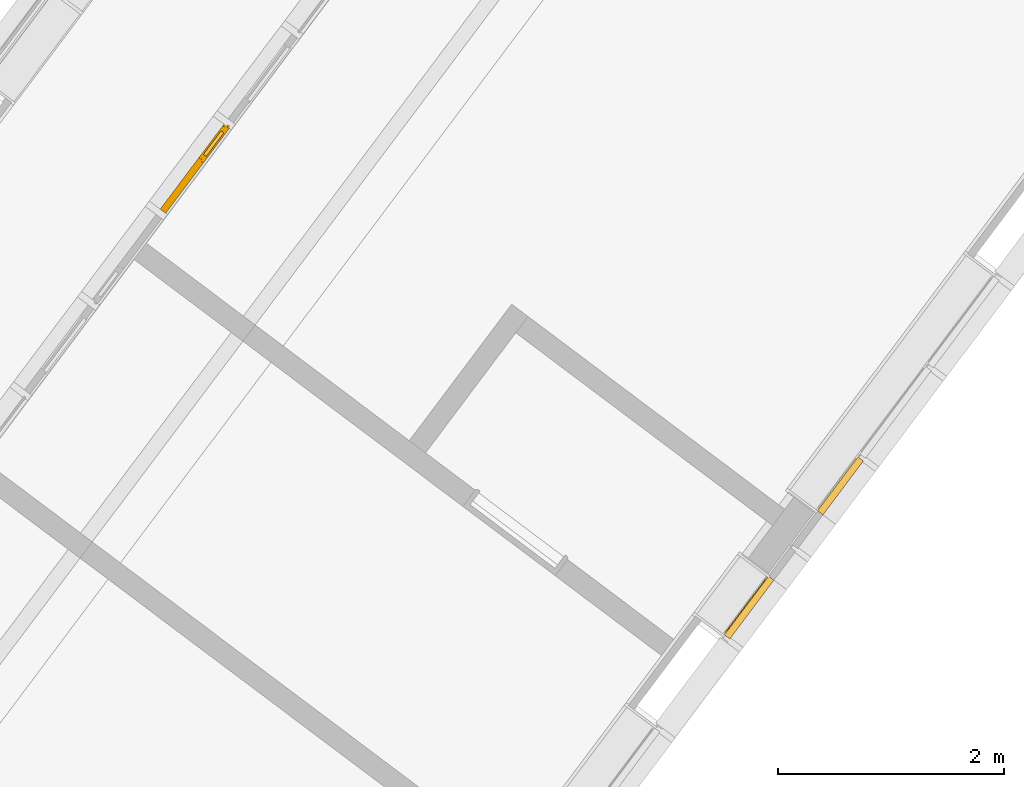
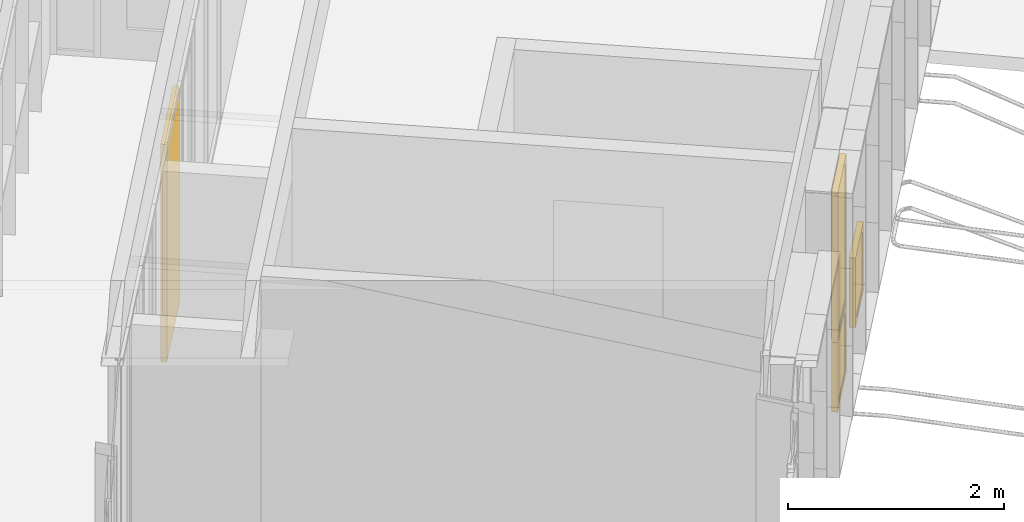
# One storey, part 227 of 243: 4 windows, 2 elements without a shape of their own.
"""IFC2X3 building model written with IfcOpenShell, lengths in metres."""

from ifc_helpers import new_model, entity, si_unit, converted_unit, derived_unit, direction, frame, origin, place, context, subcontext, project, spatial, faceted_brep, source, transform, mapped, material, material_list, type_object, type_shapes, element, aggregate, save


model = new_model("IFC2X3")

# Units and contexts
model_context = context("Model", 3, precision=1e-05, world=origin(), true_north=direction((6.123031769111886e-17, 1.0)))
body_context = subcontext(model_context, "Body", "Model", "MODEL_VIEW")
ifc_project = project(units=[si_unit("LENGTHUNIT", "METRE"), si_unit("AREAUNIT", "SQUARE_METRE"), si_unit("VOLUMEUNIT", "CUBIC_METRE"), converted_unit("PLANEANGLEUNIT", "DEGREE", entity("IfcRatioMeasure", 0.017453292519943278), si_unit("PLANEANGLEUNIT", "RADIAN"), dimensions=[0, 0, 0, 0, 0, 0, 0]), si_unit("MASSUNIT", "GRAM", prefix="KILO"), derived_unit("MASSDENSITYUNIT", [(si_unit("MASSUNIT", "GRAM", prefix="KILO"), 1), (si_unit("LENGTHUNIT", "METRE"), -3)]), derived_unit("IONCONCENTRATIONUNIT", [(si_unit("MASSUNIT", "GRAM", prefix="KILO"), 1), (si_unit("LENGTHUNIT", "METRE"), -3)]), derived_unit("MOMENTOFINERTIAUNIT", [(si_unit("LENGTHUNIT", "METRE"), 4)]), si_unit("TIMEUNIT", "SECOND"), si_unit("FREQUENCYUNIT", "HERTZ"), si_unit("THERMODYNAMICTEMPERATUREUNIT", "DEGREE_CELSIUS"), derived_unit("THERMALTRANSMITTANCEUNIT", [(si_unit("MASSUNIT", "GRAM", prefix="KILO"), 1), (si_unit("THERMODYNAMICTEMPERATUREUNIT", "KELVIN"), -1), (si_unit("TIMEUNIT", "SECOND"), -3)]), derived_unit("THERMALCONDUCTANCEUNIT", [(si_unit("MASSUNIT", "GRAM", prefix="KILO"), 1), (si_unit("THERMODYNAMICTEMPERATUREUNIT", "KELVIN"), -1), (si_unit("TIMEUNIT", "SECOND"), -3), (si_unit("LENGTHUNIT", "METRE"), 1)]), derived_unit("VOLUMETRICFLOWRATEUNIT", [(si_unit("LENGTHUNIT", "METRE"), 3), (si_unit("TIMEUNIT", "SECOND"), -1)]), derived_unit("MASSFLOWRATEUNIT", [(si_unit("MASSUNIT", "GRAM", prefix="KILO"), 1), (si_unit("TIMEUNIT", "SECOND"), -1)]), derived_unit("ROTATIONALFREQUENCYUNIT", [(si_unit("TIMEUNIT", "SECOND"), -1)]), si_unit("ELECTRICCURRENTUNIT", "AMPERE"), si_unit("ELECTRICVOLTAGEUNIT", "VOLT"), si_unit("POWERUNIT", "WATT"), si_unit("FORCEUNIT", "NEWTON", prefix="KILO"), si_unit("ILLUMINANCEUNIT", "LUX"), si_unit("LUMINOUSFLUXUNIT", "LUMEN"), si_unit("LUMINOUSINTENSITYUNIT", "CANDELA"), derived_unit("USERDEFINED", [(si_unit("MASSUNIT", "GRAM", prefix="KILO"), -1), (si_unit("LENGTHUNIT", "METRE"), -2), (si_unit("TIMEUNIT", "SECOND"), 3), (si_unit("LUMINOUSFLUXUNIT", "LUMEN"), 1)]), derived_unit("USERDEFINED", [(si_unit("MASSUNIT", "GRAM", prefix="KILO"), 1), (si_unit("TIMEUNIT", "SECOND"), -3), (si_unit("LENGTHUNIT", "METRE"), 3), (si_unit("ELECTRICCURRENTUNIT", "AMPERE"), -2)]), derived_unit("SOUNDPOWERUNIT", [(si_unit("MASSUNIT", "GRAM", prefix="KILO"), 1), (si_unit("TIMEUNIT", "SECOND"), -3), (si_unit("LENGTHUNIT", "METRE"), 2)]), derived_unit("SOUNDPRESSUREUNIT", [(si_unit("MASSUNIT", "GRAM", prefix="KILO"), 1), (si_unit("LENGTHUNIT", "METRE"), -1), (si_unit("TIMEUNIT", "SECOND"), -2)]), derived_unit("LINEARVELOCITYUNIT", [(si_unit("LENGTHUNIT", "METRE"), 1), (si_unit("TIMEUNIT", "SECOND"), -1)]), si_unit("PRESSUREUNIT", "PASCAL"), derived_unit("USERDEFINED", [(si_unit("MASSUNIT", "GRAM", prefix="KILO"), 1), (si_unit("LENGTHUNIT", "METRE"), -2), (si_unit("TIMEUNIT", "SECOND"), -2)]), derived_unit("LINEARFORCEUNIT", [(si_unit("MASSUNIT", "GRAM", prefix="KILO"), 1), (si_unit("TIMEUNIT", "SECOND"), -2)]), derived_unit("PLANARFORCEUNIT", [(si_unit("MASSUNIT", "GRAM", prefix="KILO"), 1), (si_unit("LENGTHUNIT", "METRE"), -1), (si_unit("TIMEUNIT", "SECOND"), -2)]), derived_unit("SPECIFICHEATCAPACITYUNIT", [(si_unit("THERMODYNAMICTEMPERATUREUNIT", "KELVIN"), -1), (si_unit("LENGTHUNIT", "METRE"), 2), (si_unit("TIMEUNIT", "SECOND"), -2)]), derived_unit("HEATINGVALUEUNIT", [(si_unit("LENGTHUNIT", "METRE"), 2), (si_unit("TIMEUNIT", "SECOND"), -2)]), derived_unit("VAPORPERMEABILITYUNIT", [(si_unit("LENGTHUNIT", "METRE"), -1), (si_unit("TIMEUNIT", "SECOND"), 1)]), derived_unit("DYNAMICVISCOSITYUNIT", [(si_unit("MASSUNIT", "GRAM", prefix="KILO"), 1), (si_unit("TIMEUNIT", "SECOND"), -1), (si_unit("LENGTHUNIT", "METRE"), -1)]), derived_unit("THERMALEXPANSIONCOEFFICIENTUNIT", [(si_unit("THERMODYNAMICTEMPERATUREUNIT", "KELVIN"), -1)]), derived_unit("MODULUSOFELASTICITYUNIT", [(si_unit("MASSUNIT", "GRAM", prefix="KILO"), 1), (si_unit("LENGTHUNIT", "METRE"), -1), (si_unit("TIMEUNIT", "SECOND"), -2)]), derived_unit("ISOTHERMALMOISTURECAPACITYUNIT", [(si_unit("LENGTHUNIT", "METRE"), 3), (si_unit("MASSUNIT", "GRAM", prefix="KILO"), -1)]), derived_unit("MOISTUREDIFFUSIVITYUNIT", [(si_unit("TIMEUNIT", "SECOND"), -1), (si_unit("LENGTHUNIT", "METRE"), 2)])], contexts=[model_context])

# Site, building, storey
site_placement = place(None, frame((0.0, 0.0, 235.0), z_axis=(0.0, 0.0, 1.0), x_axis=(-0.7996477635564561, 0.6004693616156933, 0.0)))
site = spatial("IfcSite", under=ifc_project, at=site_placement, Name="Default", CompositionType="ELEMENT")
building_placement = place(site_placement, origin())
building = spatial("IfcBuilding", under=site, at=building_placement, CompositionType="ELEMENT")
storey_placement = place(building_placement, origin())
storey = spatial("IfcBuildingStorey", under=building, at=storey_placement, Name="P0- Escola", CompositionType="ELEMENT", Elevation=0.0)

# Curtain wall, window
curtain_wall_type_1 = type_object("IfcCurtainWallType", Name="Muro cortina:MC- INT- a2", PredefinedType="NOTDEFINED")
curtain_wall_1_placement = place(storey_placement, origin())
curtain_wall_1 = element("IfcCurtainWall", 1, at=curtain_wall_1_placement, inside=storey, type_object=curtain_wall_type_1, Name="Muro cortina:MC- INT- a2", ObjectType="Muro cortina:MC- INT- a2")
ifc_material_1 = material(Name="_Fusta massisa- T1-  REV- PAV")
window_style_1 = type_object("IfcWindowStyle", Name="MC- Fusta- Finestra ventilacio interior:MC- Fusta- Finestra ventilacio interior", ConstructionType="NOTDEFINED", OperationType="NOTDEFINED", ParameterTakesPrecedence=False, Sizeable=False, material=ifc_material_1)
shared_shape_1 = source(origin(), body_context, "Body", "Brep", [
    faceted_brep([(0.40050000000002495, 0.025000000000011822, 2.382999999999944), (0.13950000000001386, 0.0250000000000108, 2.3829999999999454), (0.13950000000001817, 0.025000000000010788, 1.0449999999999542), (0.4005000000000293, 0.025000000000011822, 1.0449999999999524), (0.139500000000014, -0.004999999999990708, 2.3829999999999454), (0.1395000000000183, -0.004999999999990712, 1.0449999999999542), (0.4005000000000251, -0.004999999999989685, 2.382999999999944), (0.40050000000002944, -0.00499999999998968, 1.0449999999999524), (0.09450000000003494, 0.04000000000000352, 2.427999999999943), (0.09450000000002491, 0.04000000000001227, 1.0), (0.09450000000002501, 0.01000000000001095, 1.0), (0.09450000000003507, 0.01000000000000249, 2.427999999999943), (0.44550000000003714, 0.010000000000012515, 1.0), (0.445500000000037, 0.04000000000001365, 1.0), (0.4455000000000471, 0.0400000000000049, 2.427999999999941), (0.44550000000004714, 0.010000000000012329, 2.428000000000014), (0.07950000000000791, 0.009999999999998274, 0.9850000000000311), (0.07950000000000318, 0.010000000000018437, 2.44300000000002), (0.46050000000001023, 0.010000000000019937, 2.4430000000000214), (0.46050000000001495, 0.009999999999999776, 0.9850000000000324), (0.07950000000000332, -0.019999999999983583, 2.443000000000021), (0.07950000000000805, -0.020000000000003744, 0.9850000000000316), (0.4605000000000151, -0.02000000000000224, 0.985000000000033), (0.46050000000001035, -0.019999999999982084, 2.443000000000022)], [[[0, 1, 2, 3]], [[1, 4, 5, 2]], [[4, 6, 7, 5]], [[3, 7, 6, 0]], [[8, 9, 10, 11]], [[12, 13, 14, 15]], [[15, 14, 8, 11]], [[8, 14, 13, 9]], [[0, 6, 4, 1]], [[2, 5, 7, 3]], [[9, 13, 12, 10]], [[11, 10, 12, 15], [16, 17, 18, 19]], [[20, 21, 22, 23]], [[20, 23, 18, 17]], [[16, 21, 20, 17]], [[18, 23, 22, 19]], [[16, 19, 22, 21]]], outer=[[True], [True], [True], [True], [True], [True], [True], [True], [True], [True], [True], [False, True], [True], [True], [True], [True], [True]]),
    faceted_brep([(0.4625000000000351, -0.019999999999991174, 0.9850000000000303), (0.07750000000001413, -0.019999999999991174, 0.9850000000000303), (0.07750000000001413, -0.01999999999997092, 2.444999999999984), (0.4625000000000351, -0.01999999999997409, 2.4449999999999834), (-0.47249999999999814, -0.019999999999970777, 2.4549999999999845), (-0.4724999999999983, -0.020000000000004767, 0.004999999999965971), (0.4725000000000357, -0.020000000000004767, 0.004999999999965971), (0.47250000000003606, -0.019999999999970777, 2.4549999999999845), (0.47250000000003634, -0.01599999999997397, 2.4549999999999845), (0.47250000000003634, -0.01600000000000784, 0.004999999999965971), (-0.47249999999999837, -0.01600000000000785, 0.0049999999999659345), (0.477500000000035, -0.015999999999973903, 2.459999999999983), (-0.4774999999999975, -0.015999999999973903, 2.459999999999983), (-0.4774999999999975, -0.016000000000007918, 0.0), (0.47750000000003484, -0.016000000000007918, 0.0), (-0.47249999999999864, -0.01599999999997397, 2.455000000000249), (-0.47249999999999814, 0.03600000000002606, 2.454999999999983), (-0.47249999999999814, 0.03599999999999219, 0.004999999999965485), (0.4725000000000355, 0.03599999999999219, 0.004999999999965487), (0.4725000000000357, 0.03600000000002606, 2.454999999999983), (-0.47749999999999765, 0.036000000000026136, 2.4599999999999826), (0.4775000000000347, 0.036000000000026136, 2.459999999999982), (0.4775000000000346, 0.03599999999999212, 0.0), (-0.47749999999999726, 0.03599999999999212, 0.0), (-0.4724999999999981, 0.03999999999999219, 0.0049999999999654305), (0.47250000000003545, 0.03999999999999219, 0.004999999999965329), (0.09250000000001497, 0.040000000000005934, 1.0), (0.44750000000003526, 0.04000000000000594, 1.0), (0.44750000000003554, 0.040000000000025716, 2.4299999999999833), (0.0925000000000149, 0.040000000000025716, 2.4299999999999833), (-0.4724999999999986, 0.040000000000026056, 2.4550000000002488), (0.47250000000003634, 0.040000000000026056, 2.454999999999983), (0.4625000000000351, 0.010000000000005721, 0.9850000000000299), (0.4625000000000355, 0.010000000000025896, 2.4449999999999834), (0.0925000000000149, 0.0100000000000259, 2.4449999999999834), (0.07750000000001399, 0.010000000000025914, 2.4449999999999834), (0.07750000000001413, 0.010000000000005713, 0.9850000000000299), (0.09250000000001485, 0.010000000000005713, 0.9850000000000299), (0.44750000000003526, 0.01000000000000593, 1.0), (0.0925000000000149, 0.010000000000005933, 1.0), (0.0925000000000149, 0.010000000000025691, 2.4299999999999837), (0.4475000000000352, 0.010000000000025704, 2.4299999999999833)], [[[0, 1, 2, 3], [4, 5, 6, 7]], [[8, 7, 6, 9]], [[5, 10, 9, 6]], [[11, 12, 13, 14], [10, 15, 8, 9]], [[16, 17, 18, 19], [20, 21, 22, 23]], [[17, 24, 25, 18]], [[26, 27, 28, 29], [24, 30, 31, 25]], [[32, 33, 34, 35, 36, 37], [38, 39, 40, 41]], [[26, 39, 38, 27]], [[39, 26, 29, 40]], [[41, 28, 27, 38]], [[3, 33, 32, 0]], [[1, 36, 35, 2]], [[36, 1, 0, 32, 37]], [[4, 15, 10, 5]], [[16, 30, 24, 17]], [[12, 20, 23, 13]], [[13, 23, 22, 14]], [[21, 11, 14, 22]], [[7, 8, 15, 4]], [[11, 21, 20, 12]], [[33, 3, 2, 35, 34]], [[28, 41, 40, 29]], [[19, 31, 30, 16]], [[31, 19, 18, 25]]], outer=[[False, True], [True], [True], [True, False], [False, True], [True], [False, True], [True, False], [True], [True], [True], [True], [True], [True], [True], [True], [True], [True], [True], [True], [True], [True], [True], [True], [True]]),
])
type_shapes(window_style_1, [shared_shape_1])
window_1_placement = place(curtain_wall_1_placement, frame((34.620147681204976, -30.92269175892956, 0.059999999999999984), z_axis=(0.0, 0.0, 1.0), x_axis=(0.0, -1.0, 0.0)))
window_1 = element("IfcWindow", 2, at=window_1_placement, type_object=window_style_1, material=ifc_material_1, Name="MC- Fusta- Finestra ventilacio interior:MC- Fusta- Finestra ventilacio interior", ObjectType="MC- Fusta- Finestra ventilacio interior:MC- Fusta- Finestra ventilacio interior", OverallHeight=2.4600000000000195, OverallWidth=0.9550000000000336, context=body_context, shape_type="MappedRepresentation", body=[
    mapped(shared_shape_1, transform((0.0, 0.0, 0.0), scale=1.0)),
])
aggregate(curtain_wall_1, [window_1])

# Curtain wall, windows
curtain_wall_type_2 = type_object("IfcCurtainWallType", Name="Muro cortina:MC- EXT- MC2", PredefinedType="NOTDEFINED")
curtain_wall_2_placement = place(storey_placement, origin())
curtain_wall_2 = element("IfcCurtainWall", 3, at=curtain_wall_2_placement, inside=storey, type_object=curtain_wall_type_2, Name="Muro cortina:MC- EXT- MC2", ObjectType="Muro cortina:MC- EXT- MC2")
ifc_material_2 = material(Name="_Vidre")
ifc_material_3 = material(Name="_Alumini- T1- Perfil")
ifc_material_list = material_list([ifc_material_2, ifc_material_3])
window_style_2 = type_object("IfcWindowStyle", Name="MC- Alu- Conjunt vidre fix- 62x60 cm:MC- Alu- Conjunt vidre fix- 62x60 cm", ConstructionType="NOTDEFINED", OperationType="NOTDEFINED", ParameterTakesPrecedence=False, Sizeable=False, material=ifc_material_list)
shared_shape_2 = source(origin(), body_context, "Body", "Brep", [
    faceted_brep([(0.27702661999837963, -0.007600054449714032, 0.048806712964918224), (0.27702661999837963, -0.03160022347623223, 0.048806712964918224), (-0.27702661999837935, -0.03160022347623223, 0.048806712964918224), (-0.27702661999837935, -0.007600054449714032, 0.048806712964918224), (0.27702661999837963, -0.007600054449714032, 0.7387000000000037), (-0.27702661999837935, -0.007600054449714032, 0.7387000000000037), (-0.27702661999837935, -0.03160022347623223, 0.7387000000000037), (0.27702661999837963, -0.03160022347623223, 0.7387000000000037)], [[[0, 1, 2, 3]], [[4, 0, 3, 5]], [[5, 3, 2, 6]], [[6, 2, 1, 7]], [[7, 1, 0, 4]], [[4, 5, 6, 7]]]),
    faceted_brep([(0.3258333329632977, -0.05999999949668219, 0.7877000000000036), (0.3258333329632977, -0.05999999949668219, 0.0), (0.3258333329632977, 0.0, 0.0), (0.3258333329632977, 0.0, 0.7877000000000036), (-0.3258333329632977, 0.0, 0.7877000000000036), (-0.3258333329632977, 0.0, 0.0), (0.2630265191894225, 0.0, 0.7248931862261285), (-0.2630265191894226, 0.0, 0.7248931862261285), (-0.2630265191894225, 0.0, 0.06280681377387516), (0.2630265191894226, 0.0, 0.06280681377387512), (-0.3258333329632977, -0.05999999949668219, 0.0), (-0.3258333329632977, -0.05999999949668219, 0.7877000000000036), (-0.263029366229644, -0.05999999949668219, 0.72489603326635), (0.263029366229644, -0.05999999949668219, 0.72489603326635), (0.263029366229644, -0.05999999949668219, 0.0628039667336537), (-0.263029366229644, -0.05999999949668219, 0.0628039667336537), (0.26302936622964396, -0.03160022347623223, 0.7248960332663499), (0.263029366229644, -0.03160022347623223, 0.0628039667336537), (-0.263029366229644, -0.03160022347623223, 0.0628039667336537), (-0.2630293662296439, -0.03160022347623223, 0.7248960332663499), (-0.2770266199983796, -0.03160022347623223, 0.7388932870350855), (0.2770266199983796, -0.03160022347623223, 0.7388932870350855), (0.2770266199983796, -0.03160022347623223, 0.048806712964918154), (-0.2770266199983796, -0.03160022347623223, 0.04880671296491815), (0.2770266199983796, -0.007600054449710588, 0.7388932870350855), (0.2770266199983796, -0.007600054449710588, 0.04880671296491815), (-0.2770266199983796, -0.007600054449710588, 0.04880671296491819), (-0.2770266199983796, -0.007600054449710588, 0.7388932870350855), (-0.2630265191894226, -0.007600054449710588, 0.7248931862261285), (0.2630265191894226, -0.007600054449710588, 0.7248931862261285), (0.2630265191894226, -0.007600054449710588, 0.06280681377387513), (-0.2630265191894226, -0.007600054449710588, 0.06280681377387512)], [[[0, 1, 2, 3]], [[4, 3, 2, 5], [6, 7, 8, 9]], [[1, 10, 5, 2]], [[0, 11, 10, 1], [12, 13, 14, 15]], [[16, 17, 14, 13]], [[17, 18, 15, 14]], [[16, 19, 18, 17], [20, 21, 22, 23]], [[24, 25, 22, 21]], [[25, 26, 23, 22]], [[24, 27, 26, 25], [28, 29, 30, 31]], [[6, 9, 30, 29]], [[9, 8, 31, 30]], [[10, 11, 4, 5]], [[18, 19, 12, 15]], [[26, 27, 20, 23]], [[8, 7, 28, 31]], [[11, 0, 3, 4]], [[19, 16, 13, 12]], [[27, 24, 21, 20]], [[7, 6, 29, 28]]], outer=[[True], [True, False], [True], [True, False], [True], [True], [False, True], [True], [True], [True, False], [True], [True], [True], [True], [True], [True], [True], [True], [True], [True]]),
])
type_shapes(window_style_2, [shared_shape_2])
window_2_placement = place(curtain_wall_2_placement, frame((28.345147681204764, -30.756025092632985, 0.03229999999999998), z_axis=(0.0, 0.0, 1.0), x_axis=(0.0, 1.0, 0.0)))
window_2 = element("IfcWindow", 4, at=window_2_placement, type_object=window_style_2, material=ifc_material_list, Name="MC- Alu- Conjunt vidre fix- 62x60 cm:MC- Alu- Conjunt vidre fix- 62x60 cm", ObjectType="MC- Alu- Conjunt vidre fix- 62x60 cm:MC- Alu- Conjunt vidre fix- 62x60 cm", OverallHeight=0.7877000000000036, OverallWidth=0.6516666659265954, context=body_context, shape_type="MappedRepresentation", body=[
    mapped(shared_shape_2, transform((0.0, 0.0, 0.0), scale=1.0)),
])
window_style_3 = type_object("IfcWindowStyle", Name="MC- Alu- Conjunt vidre fix- 62x60 cm:MC- Alu- Conjunt vidre fix- 62x60 cm", ConstructionType="NOTDEFINED", OperationType="NOTDEFINED", ParameterTakesPrecedence=False, Sizeable=False, material=ifc_material_list)
shared_shape_3 = source(origin(), body_context, "Body", "Brep", [
    faceted_brep([(0.24944328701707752, -0.007600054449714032, 0.048806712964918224), (0.24944328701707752, -0.03160022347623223, 0.048806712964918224), (-0.24944328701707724, -0.03160022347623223, 0.048806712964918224), (-0.24944328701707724, -0.007600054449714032, 0.048806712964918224), (0.24944328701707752, -0.007600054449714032, 0.7387000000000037), (-0.24944328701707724, -0.007600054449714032, 0.7387000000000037), (-0.24944328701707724, -0.03160022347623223, 0.7387000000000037), (0.24944328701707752, -0.03160022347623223, 0.7387000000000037)], [[[0, 1, 2, 3]], [[4, 0, 3, 5]], [[5, 3, 2, 6]], [[6, 2, 1, 7]], [[7, 1, 0, 4]], [[4, 5, 6, 7]]]),
    faceted_brep([(0.2982499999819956, -0.05999999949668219, 0.7877000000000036), (0.2982499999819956, -0.05999999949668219, 0.0), (0.2982499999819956, 0.0, 0.0), (0.2982499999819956, 0.0, 0.7877000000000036), (-0.2982499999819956, 0.0, 0.7877000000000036), (-0.2982499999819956, 0.0, 0.0), (0.2354431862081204, 0.0, 0.7248931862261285), (-0.23544318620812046, 0.0, 0.7248931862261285), (-0.23544318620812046, 0.0, 0.06280681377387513), (0.23544318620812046, 0.0, 0.06280681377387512), (-0.2982499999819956, -0.05999999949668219, 0.0), (-0.2982499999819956, -0.05999999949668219, 0.7877000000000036), (-0.2354460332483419, -0.05999999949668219, 0.72489603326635), (0.2354460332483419, -0.05999999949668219, 0.72489603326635), (0.2354460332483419, -0.05999999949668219, 0.0628039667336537), (-0.2354460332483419, -0.05999999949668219, 0.0628039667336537), (0.23544603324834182, -0.03160022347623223, 0.7248960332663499), (0.2354460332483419, -0.03160022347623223, 0.0628039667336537), (-0.2354460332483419, -0.03160022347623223, 0.0628039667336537), (-0.2354460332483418, -0.03160022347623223, 0.7248960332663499), (-0.24944328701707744, -0.03160022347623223, 0.7388932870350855), (0.24944328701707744, -0.03160022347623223, 0.7388932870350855), (0.24944328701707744, -0.03160022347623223, 0.048806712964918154), (-0.24944328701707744, -0.03160022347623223, 0.04880671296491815), (0.24944328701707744, -0.007600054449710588, 0.7388932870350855), (0.24944328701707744, -0.007600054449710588, 0.04880671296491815), (-0.24944328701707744, -0.007600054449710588, 0.04880671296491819), (-0.24944328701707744, -0.007600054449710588, 0.7388932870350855), (-0.23544318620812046, -0.007600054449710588, 0.7248931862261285), (0.23544318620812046, -0.007600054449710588, 0.7248931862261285), (0.23544318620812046, -0.007600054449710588, 0.06280681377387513), (-0.23544318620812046, -0.007600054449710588, 0.06280681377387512)], [[[0, 1, 2, 3]], [[4, 3, 2, 5], [6, 7, 8, 9]], [[1, 10, 5, 2]], [[0, 11, 10, 1], [12, 13, 14, 15]], [[16, 17, 14, 13]], [[17, 18, 15, 14]], [[16, 19, 18, 17], [20, 21, 22, 23]], [[24, 25, 22, 21]], [[25, 26, 23, 22]], [[24, 27, 26, 25], [28, 29, 30, 31]], [[6, 9, 30, 29]], [[9, 8, 31, 30]], [[10, 11, 4, 5]], [[18, 19, 12, 15]], [[26, 27, 20, 23]], [[8, 7, 28, 31]], [[11, 0, 3, 4]], [[19, 16, 13, 12]], [[27, 24, 21, 20]], [[7, 6, 29, 28]]], outer=[[True], [True, False], [True], [True, False], [True], [True], [False, True], [True], [True], [True, False], [True], [True], [True], [True], [True], [True], [True], [True], [True], [True]]),
])
type_shapes(window_style_3, [shared_shape_3])
window_3_placement = place(curtain_wall_2_placement, frame((28.345147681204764, -32.10194175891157, 0.03229999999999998), z_axis=(0.0, 0.0, 1.0), x_axis=(0.0, 1.0, 0.0)))
window_3 = element("IfcWindow", 5, at=window_3_placement, type_object=window_style_3, material=ifc_material_list, Name="MC- Alu- Conjunt vidre fix- 62x60 cm:MC- Alu- Conjunt vidre fix- 62x60 cm", ObjectType="MC- Alu- Conjunt vidre fix- 62x60 cm:MC- Alu- Conjunt vidre fix- 62x60 cm", OverallHeight=0.7877000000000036, OverallWidth=0.5964999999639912, context=body_context, shape_type="MappedRepresentation", body=[
    mapped(shared_shape_3, transform((0.0, 0.0, 0.0), scale=1.0)),
])
window_style_4 = type_object("IfcWindowStyle", Name="MC- Alu- Conjunt finestra basculant- 68x68 cm:MC- Alu- Conjunt finestra basculant- 68x68 cm", ConstructionType="NOTDEFINED", OperationType="NOTDEFINED", ParameterTakesPrecedence=False, Sizeable=False, material=ifc_material_list)
shared_shape_4 = source(origin(), body_context, "Body", "Brep", [
    faceted_brep([(0.27374504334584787, -0.035598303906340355, 0.051999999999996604), (-0.27374504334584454, -0.035598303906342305, 0.051999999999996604), (-0.27374504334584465, -0.0115981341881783, 0.051999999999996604), (0.2737450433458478, -0.011598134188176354, 0.051999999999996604), (0.27374504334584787, -0.035598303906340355, 1.6315527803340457), (0.2737450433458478, -0.011598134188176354, 1.6315527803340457), (-0.2737450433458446, -0.0115981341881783, 1.6315527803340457), (-0.27374504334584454, -0.035598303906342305, 1.6315527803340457)], [[[0, 1, 2, 3]], [[4, 0, 3, 5]], [[5, 3, 2, 6]], [[6, 2, 1, 7]], [[7, 1, 0, 4]], [[4, 5, 6, 7]]]),
    faceted_brep([(-0.25804422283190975, -0.009998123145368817, 1.615851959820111), (-0.25804422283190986, -0.009998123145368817, 0.06789804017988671), (-0.25804422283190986, -0.007998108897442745, 0.06789804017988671), (-0.25804422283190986, -0.007998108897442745, 1.6158519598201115), (-0.2869422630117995, -0.007998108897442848, 1.644750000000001), (0.2869422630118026, -0.00799810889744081, 1.644750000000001), (0.2869422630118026, -0.00799810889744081, 0.03899999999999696), (-0.2869422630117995, -0.007998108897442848, 0.03899999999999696), (0.258044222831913, -0.007998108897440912, 1.6158519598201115), (0.258044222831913, -0.007998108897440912, 0.06789804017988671), (0.258044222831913, -0.009998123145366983, 0.06789804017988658), (0.25804422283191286, -0.009998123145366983, 1.615851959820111), (0.27374504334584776, -0.009998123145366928, 1.6315527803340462), (-0.27374504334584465, -0.009998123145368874, 1.6315527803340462), (-0.27374504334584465, -0.009998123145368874, 0.05219721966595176), (0.27374504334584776, -0.009998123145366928, 0.05219721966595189), (-0.27374504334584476, -0.040799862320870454, 1.6315527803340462), (-0.27374504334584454, -0.040799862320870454, 0.05219721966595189), (0.2737450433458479, -0.04079986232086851, 0.05219721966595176), (0.2737450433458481, -0.04079986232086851, 1.6315527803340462), (0.25804422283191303, -0.04079986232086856, 1.6158519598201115), (-0.25804422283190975, -0.04079986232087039, 1.6158519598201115), (-0.25804422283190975, -0.04079986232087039, 0.06789804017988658), (0.25804422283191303, -0.04079986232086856, 0.06789804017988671), (-0.25804422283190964, -0.06800005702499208, 1.6158519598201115), (-0.25804422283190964, -0.06800005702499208, 0.06789804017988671), (0.25804422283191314, -0.06800005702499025, 0.06789804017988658), (0.25804422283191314, -0.06800005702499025, 1.6158519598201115), (0.30444623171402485, -0.06800005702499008, 1.662253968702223), (-0.30444623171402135, -0.06800005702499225, 1.662253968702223), (-0.30444623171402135, -0.06800005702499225, 0.021496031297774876), (0.30444623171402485, -0.06800005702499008, 0.021496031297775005), (-0.30444623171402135, -0.06450003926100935, 1.662253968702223), (-0.30444623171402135, -0.06450003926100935, 0.021496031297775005), (0.30444623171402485, -0.06450003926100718, 0.021496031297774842), (0.30444623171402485, -0.06450003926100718, 1.662253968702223), (0.28694226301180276, -0.06450003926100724, 1.644750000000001), (-0.28694226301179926, -0.06450003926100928, 1.644750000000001), (-0.28694226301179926, -0.06450003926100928, 0.03899999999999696), (0.28694226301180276, -0.06450003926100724, 0.03899999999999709)], [[[0, 1, 2, 3]], [[4, 5, 6, 7], [8, 3, 2, 9]], [[1, 10, 9, 2]], [[0, 11, 10, 1], [12, 13, 14, 15]], [[16, 17, 14, 13]], [[17, 18, 15, 14]], [[16, 19, 18, 17], [20, 21, 22, 23]], [[24, 25, 22, 21]], [[25, 26, 23, 22]], [[24, 27, 26, 25], [28, 29, 30, 31]], [[32, 33, 30, 29]], [[33, 34, 31, 30]], [[32, 35, 34, 33], [36, 37, 38, 39]], [[4, 7, 38, 37]], [[7, 6, 39, 38]], [[10, 11, 8, 9]], [[18, 19, 12, 15]], [[26, 27, 20, 23]], [[34, 35, 28, 31]], [[6, 5, 36, 39]], [[11, 0, 3, 8]], [[19, 16, 13, 12]], [[27, 24, 21, 20]], [[35, 32, 29, 28]], [[5, 4, 37, 36]]], outer=[[True], [True, False], [True], [False, True], [True], [True], [True, False], [True], [True], [False, True], [True], [True], [True, False], [True], [True], [True], [True], [True], [True], [True], [True], [True], [True], [True], [True]]),
    faceted_brep([(0.2630265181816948, 0.0, 1.6209431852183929), (0.26302651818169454, 0.0, 0.06280681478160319), (0.26302651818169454, -0.0040000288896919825, 0.06280681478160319), (0.2630265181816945, -0.0040000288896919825, 1.6209431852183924), (-0.26302651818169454, -0.0040000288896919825, 1.6209431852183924), (-0.26302651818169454, -0.0040000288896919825, 0.06280681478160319), (0.2984331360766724, -0.0040000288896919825, 1.6563498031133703), (-0.2984331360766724, -0.0040000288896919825, 1.6563498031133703), (-0.2984331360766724, -0.0040000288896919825, 0.02740019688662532), (0.2984331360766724, -0.0040000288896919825, 0.027400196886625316), (-0.26302651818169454, 0.0, 0.06280681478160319), (-0.2630265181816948, 0.0, 1.6209431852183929), (-0.3258333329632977, 0.0, 1.6837499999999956), (0.3258333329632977, 0.0, 1.6837499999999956), (0.3258333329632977, 0.0, 0.0), (-0.3258333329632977, 0.0, 0.0), (0.3258333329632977, -0.05999999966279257, 1.6837499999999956), (0.3258333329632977, -0.05999999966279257, 0.0), (-0.3258333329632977, -0.05999999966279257, 0.0), (-0.3258333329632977, -0.05999999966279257, 1.6837499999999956), (-0.29843313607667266, -0.05999999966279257, 1.6563498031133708), (0.29843313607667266, -0.05999999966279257, 1.6563498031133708), (0.29843313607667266, -0.05999999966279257, 0.02740019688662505), (-0.29843313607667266, -0.05999999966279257, 0.027400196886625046)], [[[0, 1, 2, 3]], [[4, 3, 2, 5], [6, 7, 8, 9]], [[1, 10, 5, 2]], [[0, 11, 10, 1], [12, 13, 14, 15]], [[16, 17, 14, 13]], [[17, 18, 15, 14]], [[16, 19, 18, 17], [20, 21, 22, 23]], [[6, 9, 22, 21]], [[9, 8, 23, 22]], [[10, 11, 4, 5]], [[18, 19, 12, 15]], [[8, 7, 20, 23]], [[11, 0, 3, 4]], [[19, 16, 13, 12]], [[7, 6, 21, 20]]], outer=[[True], [False, True], [True], [False, True], [True], [True], [True, False], [True], [True], [True], [True], [True], [True], [True], [True]]),
])
type_shapes(window_style_4, [shared_shape_4])
window_4_placement = place(curtain_wall_2_placement, frame((28.345147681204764, -30.756025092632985, 0.8200000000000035), z_axis=(0.0, 0.0, 1.0), x_axis=(0.0, 1.0, 0.0)))
window_4 = element("IfcWindow", 6, at=window_4_placement, type_object=window_style_4, material=ifc_material_list, Name="MC- Alu- Conjunt finestra basculant- 68x68 cm:MC- Alu- Conjunt finestra basculant- 68x68 cm", ObjectType="MC- Alu- Conjunt finestra basculant- 68x68 cm:MC- Alu- Conjunt finestra basculant- 68x68 cm", OverallHeight=1.6837499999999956, OverallWidth=0.6516666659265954, context=body_context, shape_type="MappedRepresentation", body=[
    mapped(shared_shape_4, transform((0.0, 0.0, 0.0), scale=1.0)),
])
aggregate(curtain_wall_2, [window_2, window_3, window_4])

save(model, "model.ifc")
